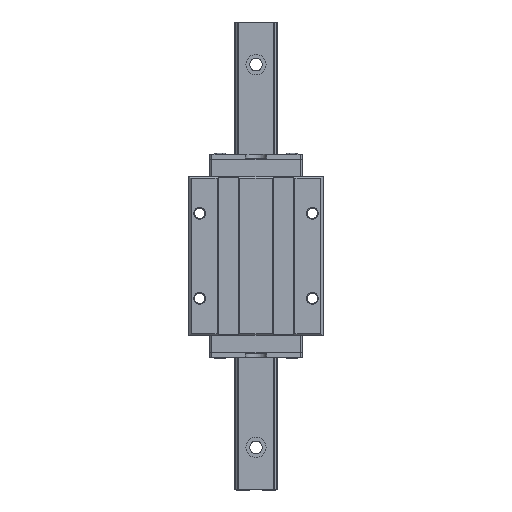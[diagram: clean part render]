
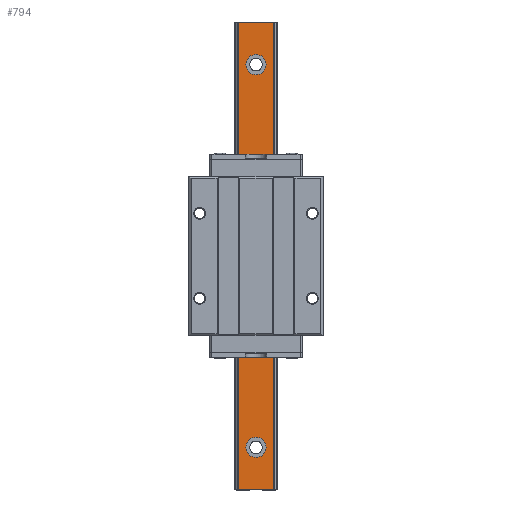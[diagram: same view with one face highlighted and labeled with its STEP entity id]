
A CAD part, top view. The second image highlights one B-rep face of the part: STEP entity #794.
In plain terms, the highlighted planar face has unit normal (0, 0, 1).
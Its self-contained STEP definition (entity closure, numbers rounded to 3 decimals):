
#794 = ADVANCED_FACE( '', ( #1687, #1688, #1689, #1690, #1691 ), #1692, .T. );
#1687 = FACE_BOUND( '', #2642, .T. );
#1688 = FACE_BOUND( '', #2643, .T. );
#1689 = FACE_BOUND( '', #2644, .T. );
#1690 = FACE_BOUND( '', #2645, .T. );
#1691 = FACE_OUTER_BOUND( '', #2646, .T. );
#1692 = PLANE( '', #2647 );
#2642 = EDGE_LOOP( '', ( #3868 ) );
#2643 = EDGE_LOOP( '', ( #3869 ) );
#2644 = EDGE_LOOP( '', ( #3870 ) );
#2645 = EDGE_LOOP( '', ( #3871 ) );
#2646 = EDGE_LOOP( '', ( #3872, #3873, #3874, #3875 ) );
#2647 = AXIS2_PLACEMENT_3D( '', #3876, #3877, #3878 );
#3868 = ORIENTED_EDGE( '', *, *, #6975, .T. );
#3869 = ORIENTED_EDGE( '', *, *, #6976, .T. );
#3870 = ORIENTED_EDGE( '', *, *, #6977, .T. );
#3871 = ORIENTED_EDGE( '', *, *, #6978, .T. );
#3872 = ORIENTED_EDGE( '', *, *, #6925, .F. );
#3873 = ORIENTED_EDGE( '', *, *, #6974, .F. );
#3874 = ORIENTED_EDGE( '', *, *, #6958, .T. );
#3875 = ORIENTED_EDGE( '', *, *, #6979, .T. );
#3876 = CARTESIAN_POINT( '', ( 8.25, -110., 16.5 ) );
#3877 = DIRECTION( '', ( 0., 0., 1. ) );
#3878 = DIRECTION( '', ( 1., 0., 0. ) );
#6925 = EDGE_CURVE( '', #7972, #7974, #7975, .T. );
#6958 = EDGE_CURVE( '', #8038, #8036, #8039, .T. );
#6974 = EDGE_CURVE( '', #8038, #7972, #8062, .T. );
#6975 = EDGE_CURVE( '', #8063, #8063, #8064, .T. );
#6976 = EDGE_CURVE( '', #8065, #8065, #8066, .T. );
#6977 = EDGE_CURVE( '', #8067, #8067, #8068, .T. );
#6978 = EDGE_CURVE( '', #8069, #8069, #8070, .T. );
#6979 = EDGE_CURVE( '', #8036, #7974, #8071, .T. );
#7972 = VERTEX_POINT( '', #9395 );
#7974 = VERTEX_POINT( '', #9398 );
#7975 = LINE( '', #9399, #9400 );
#8036 = VERTEX_POINT( '', #9484 );
#8038 = VERTEX_POINT( '', #9487 );
#8039 = LINE( '', #9488, #9489 );
#8062 = LINE( '', #9525, #9526 );
#8063 = VERTEX_POINT( '', #9527 );
#8064 = CIRCLE( '', #9528, 4.75 );
#8065 = VERTEX_POINT( '', #9529 );
#8066 = CIRCLE( '', #9530, 4.75 );
#8067 = VERTEX_POINT( '', #9531 );
#8068 = CIRCLE( '', #9532, 4.75 );
#8069 = VERTEX_POINT( '', #9533 );
#8070 = CIRCLE( '', #9534, 4.75 );
#8071 = LINE( '', #9535, #9536 );
#9395 = CARTESIAN_POINT( '', ( -8.25, 110., 16.5 ) );
#9398 = CARTESIAN_POINT( '', ( 8.25, 110., 16.5 ) );
#9399 = CARTESIAN_POINT( '', ( 8.25, 110., 16.5 ) );
#9400 = VECTOR( '', #11929, 1000. );
#9484 = CARTESIAN_POINT( '', ( 8.25, -110., 16.5 ) );
#9487 = CARTESIAN_POINT( '', ( -8.25, -110., 16.5 ) );
#9488 = CARTESIAN_POINT( '', ( 8.25, -110., 16.5 ) );
#9489 = VECTOR( '', #11978, 1000. );
#9525 = CARTESIAN_POINT( '', ( -8.25, -110., 16.5 ) );
#9526 = VECTOR( '', #11998, 1000. );
#9527 = CARTESIAN_POINT( '', ( 4.75, 90., 16.5 ) );
#9528 = AXIS2_PLACEMENT_3D( '', #11999, #12000, #12001 );
#9529 = CARTESIAN_POINT( '', ( 4.75, 30., 16.5 ) );
#9530 = AXIS2_PLACEMENT_3D( '', #12002, #12003, #12004 );
#9531 = CARTESIAN_POINT( '', ( 4.75, -30., 16.5 ) );
#9532 = AXIS2_PLACEMENT_3D( '', #12005, #12006, #12007 );
#9533 = CARTESIAN_POINT( '', ( 4.75, -90., 16.5 ) );
#9534 = AXIS2_PLACEMENT_3D( '', #12008, #12009, #12010 );
#9535 = CARTESIAN_POINT( '', ( 8.25, -110., 16.5 ) );
#9536 = VECTOR( '', #12011, 1000. );
#11929 = DIRECTION( '', ( 1., 0., 0. ) );
#11978 = DIRECTION( '', ( 1., 0., 0. ) );
#11998 = DIRECTION( '', ( 0., 1., 0. ) );
#11999 = CARTESIAN_POINT( '', ( 0., 90., 16.5 ) );
#12000 = DIRECTION( '', ( 0., 0., -1. ) );
#12001 = DIRECTION( '', ( 1., 0., 0. ) );
#12002 = CARTESIAN_POINT( '', ( 0., 30., 16.5 ) );
#12003 = DIRECTION( '', ( 0., 0., -1. ) );
#12004 = DIRECTION( '', ( 1., 0., 0. ) );
#12005 = CARTESIAN_POINT( '', ( 0., -30., 16.5 ) );
#12006 = DIRECTION( '', ( 0., 0., -1. ) );
#12007 = DIRECTION( '', ( 1., 0., 0. ) );
#12008 = CARTESIAN_POINT( '', ( 0., -90., 16.5 ) );
#12009 = DIRECTION( '', ( 0., 0., -1. ) );
#12010 = DIRECTION( '', ( 1., 0., 0. ) );
#12011 = DIRECTION( '', ( 0., 1., 0. ) );
